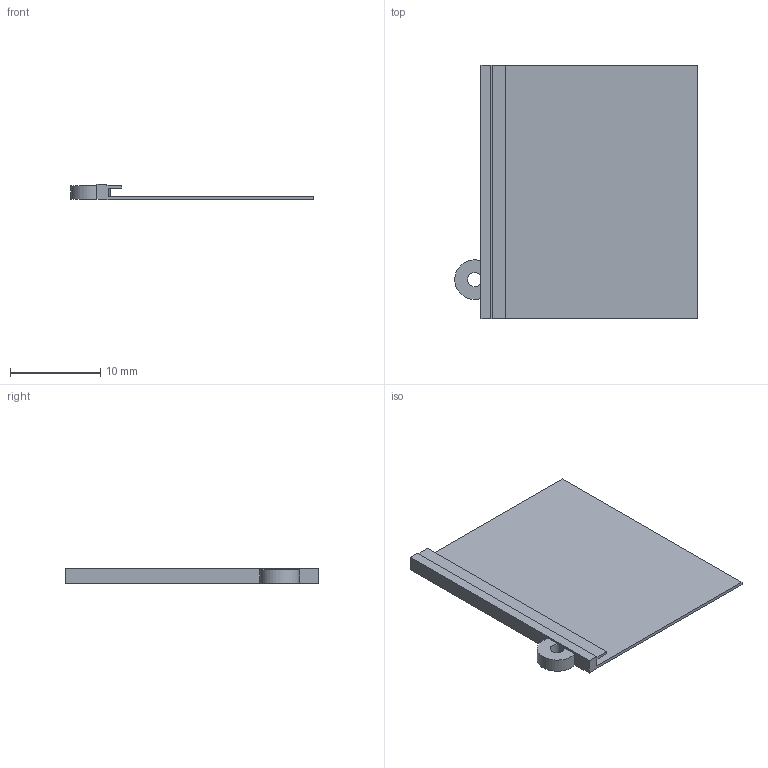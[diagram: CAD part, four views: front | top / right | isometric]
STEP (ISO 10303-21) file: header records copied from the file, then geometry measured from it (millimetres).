
FILE_DESCRIPTION(('Open CASCADE Model'),'2;1');
FILE_NAME('Open CASCADE Shape Model','2026-10-24T14:45:54',('Author'),( 'Open CASCADE'),'Open CASCADE STEP processor 7.7','Open CASCADE 7.7' ,'Unknown');
FILE_SCHEMA(('AUTOMOTIVE_DESIGN { 1 0 10303 214 1 1 1 1 }'));
Length unit declared in the file: millimetre
Products named in the file (1): Open CASCADE STEP translator 7.7 5
Bounding box: 26.87 x 28.07 x 1.73 mm (x, y, z)
Volume: 307.4 mm3; surface area: 1579.1 mm2
Topology: 1 solids, 1 shells, 23 faces, 66 edges, 44 vertices
Faces by surface type: plane 20, cylinder 3
Entity records: 1599 total; most frequent: CARTESIAN_POINT 312, DIRECTION 221, LINE 158, VECTOR 158, ORIENTED_EDGE 132, PCURVE 132, DEFINITIONAL_REPRESENTATION 132, EDGE_CURVE 66
